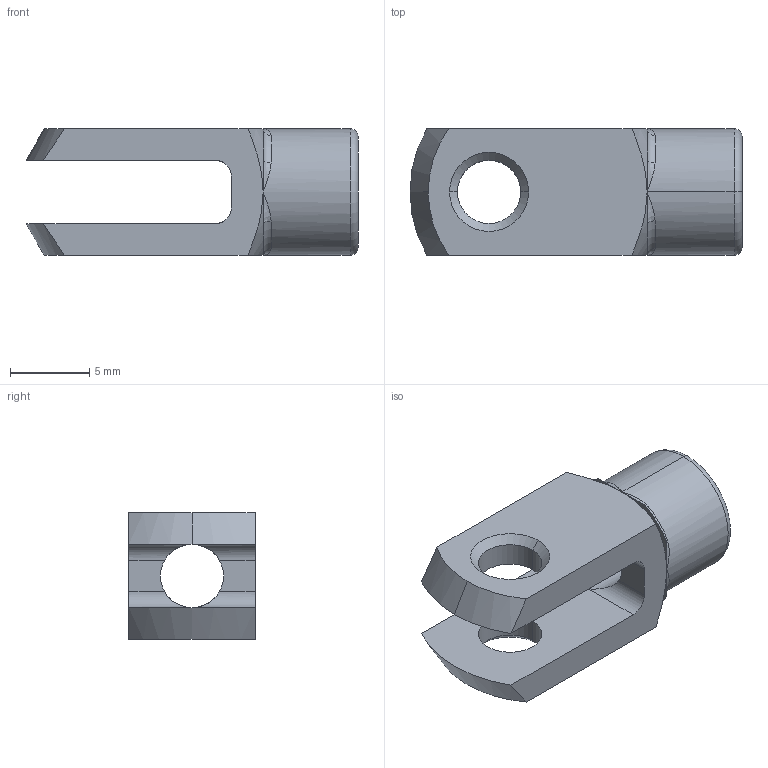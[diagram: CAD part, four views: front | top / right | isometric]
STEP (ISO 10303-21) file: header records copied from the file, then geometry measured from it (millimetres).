
FILE_DESCRIPTION (( 'STEP AP203' ), '1' );
FILE_NAME ('65636.W0040.step', '2014-01-17T13:10:22', ( 'User' ), ( '' ), 'SwSTEP 2.0', 'SolidWorks 2009', '' );
FILE_SCHEMA (( 'CONFIG_CONTROL_DESIGN' ));
Length unit declared in the file: millimetre
Products named in the file (1): 65636.W0040
Bounding box: 21 x 8 x 8 mm (x, y, z)
Volume: 658.3 mm3; surface area: 885.1 mm2
Topology: 1 solids, 1 shells, 52 faces, 127 edges, 68 vertices
Faces by surface type: cone 13, plane 13, cylinder 12, bspline 8, torus 6
Entity records: 1798 total; most frequent: CARTESIAN_POINT 584, DIRECTION 239, ORIENTED_EDGE 238, EDGE_CURVE 119, AXIS2_PLACEMENT_3D 99, VERTEX_POINT 68, EDGE_LOOP 57, CIRCLE 54
